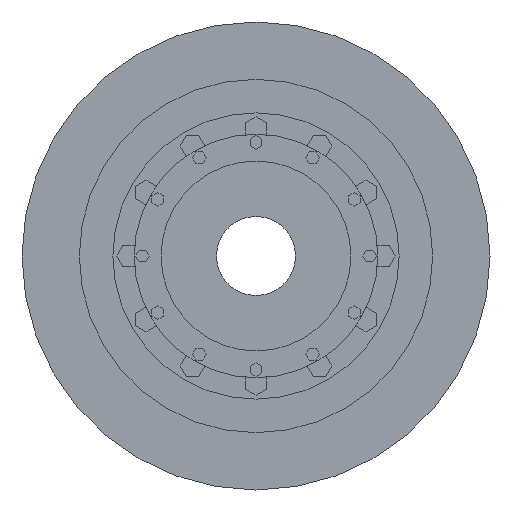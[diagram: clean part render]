
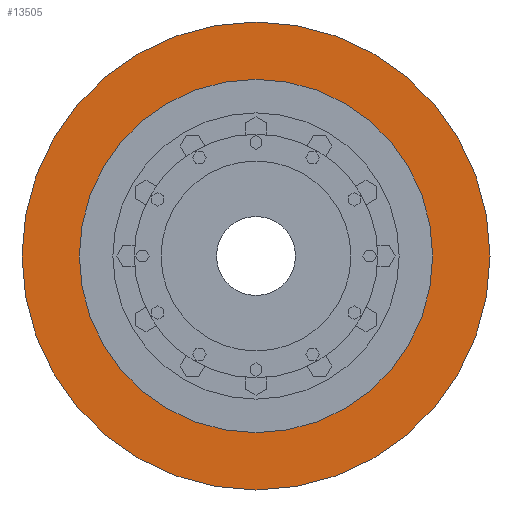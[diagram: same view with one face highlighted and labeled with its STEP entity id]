
A CAD part, left-side view. The second image highlights one B-rep face of the part: STEP entity #13505.
In plain terms, the highlighted planar face has unit normal (-1, 0, 0).
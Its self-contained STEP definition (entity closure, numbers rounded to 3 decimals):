
#13302=CARTESIAN_POINT('',(-45.,0.,0.));
#13303=DIRECTION('',(-1.,0.,0.));
#13304=DIRECTION('',(0.,1.,0.));
#13305=AXIS2_PLACEMENT_3D('',#13302,#13303,#13304);
#13307=CARTESIAN_POINT('',(-45.,0.,0.));
#13308=DIRECTION('',(1.,0.,0.));
#13309=DIRECTION('',(0.,1.,0.));
#13310=AXIS2_PLACEMENT_3D('',#13307,#13308,#13309);
#13312=CARTESIAN_POINT('',(-45.,0.,0.));
#13313=DIRECTION('',(1.,0.,0.));
#13314=DIRECTION('',(0.,1.,0.));
#13315=AXIS2_PLACEMENT_3D('',#13312,#13313,#13314);
#13325=CARTESIAN_POINT('',(-45.,0.,0.));
#13326=DIRECTION('',(-1.,0.,0.));
#13327=DIRECTION('',(0.,1.,0.));
#13328=AXIS2_PLACEMENT_3D('',#13325,#13326,#13327);
#13348=CARTESIAN_POINT('',(-45.,268.4,0.));
#13350=VERTEX_POINT('',#13348);
#13360=CARTESIAN_POINT('',(-45.,-268.4,0.));
#13362=VERTEX_POINT('',#13360);
#13365=CARTESIAN_POINT('',(-45.,355.5,0.));
#13367=VERTEX_POINT('',#13365);
#13369=CARTESIAN_POINT('',(-45.,-355.5,0.));
#13371=VERTEX_POINT('',#13369);
#13490=CARTESIAN_POINT('',(-45.,0.,0.));
#13491=DIRECTION('',(1.,0.,0.));
#13492=DIRECTION('',(0.,-1.,0.));
#13493=AXIS2_PLACEMENT_3D('',#13490,#13491,#13492);
#13494=PLANE('',#13493);
#13495=ORIENTED_EDGE('',*,*,#13483,.F.);
#13496=ORIENTED_EDGE('',*,*,#13472,.T.);
#13497=EDGE_LOOP('',(#13495,#13496));
#13498=FACE_OUTER_BOUND('',#13497,.F.);
#13500=ORIENTED_EDGE('',*,*,#13499,.F.);
#13502=ORIENTED_EDGE('',*,*,#13501,.T.);
#13503=EDGE_LOOP('',(#13500,#13502));
#13504=FACE_BOUND('',#13503,.F.);
#13505=ADVANCED_FACE('',(#13498,#13504),#13494,.F.);
#13306=CIRCLE('',#13305,355.5);
#13311=CIRCLE('',#13310,355.5);
#13316=CIRCLE('',#13315,268.4);
#13329=CIRCLE('',#13328,268.4);
#13472=EDGE_CURVE('',#13367,#13371,#13311,.T.);
#13483=EDGE_CURVE('',#13367,#13371,#13306,.T.);
#13499=EDGE_CURVE('',#13350,#13362,#13316,.T.);
#13501=EDGE_CURVE('',#13350,#13362,#13329,.T.);
